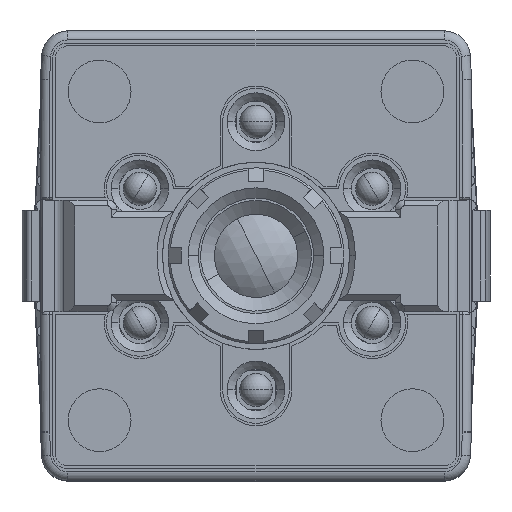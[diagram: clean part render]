
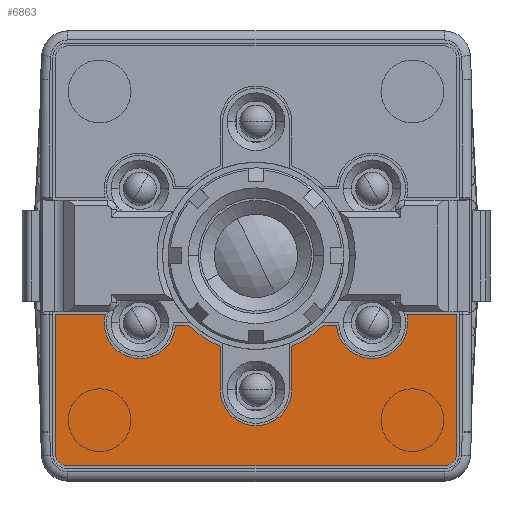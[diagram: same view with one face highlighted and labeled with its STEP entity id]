
A CAD part, top view. The second image highlights one B-rep face of the part: STEP entity #6863.
In plain terms, the highlighted planar face has unit normal (0, 0, 1).
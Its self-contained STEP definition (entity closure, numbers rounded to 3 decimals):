
#6853 = EDGE_CURVE ( 'NONE', #7175, #37166, #10245, .T. ) ;
#6858 = EDGE_LOOP ( 'NONE', ( #7137, #7193, #7194, #7267, #7192, #7215, #7101, #7147, #7149, #7150, #7105, #7106, #7242, #7257, #7158, #7167, #7169 ) ) ;
#6863 = ADVANCED_FACE ( 'NONE', ( #10236 ), #10234, .T. ) ;
#7098 = EDGE_CURVE ( 'NONE', #7178, #7182, #10275, .T. ) ;
#7101 = ORIENTED_EDGE ( 'NONE', *, *, #10218, .T. ) ;
#7105 = ORIENTED_EDGE ( 'NONE', *, *, #10482, .T. ) ;
#7106 = ORIENTED_EDGE ( 'NONE', *, *, #7176, .T. ) ;
#7137 = ORIENTED_EDGE ( 'NONE', *, *, #34178, .T. ) ;
#7147 = ORIENTED_EDGE ( 'NONE', *, *, #10497, .T. ) ;
#7149 = ORIENTED_EDGE ( 'NONE', *, *, #10647, .T. ) ;
#7150 = ORIENTED_EDGE ( 'NONE', *, *, #10595, .T. ) ;
#7158 = ORIENTED_EDGE ( 'NONE', *, *, #7181, .T. ) ;
#7167 = ORIENTED_EDGE ( 'NONE', *, *, #7265, .T. ) ;
#7169 = ORIENTED_EDGE ( 'NONE', *, *, #6853, .T. ) ;
#7175 = VERTEX_POINT ( 'NONE', #11048 ) ;
#7176 = EDGE_CURVE ( 'NONE', #10477, #10202, #11047, .T. ) ;
#7178 = VERTEX_POINT ( 'NONE', #11033 ) ;
#7181 = EDGE_CURVE ( 'NONE', #7182, #7202, #11140, .T. ) ;
#7182 = VERTEX_POINT ( 'NONE', #11135 ) ;
#7188 = EDGE_CURVE ( 'NONE', #10202, #7178, #11122, .T. ) ;
#7192 = ORIENTED_EDGE ( 'NONE', *, *, #10291, .T. ) ;
#7193 = ORIENTED_EDGE ( 'NONE', *, *, #10492, .T. ) ;
#7194 = ORIENTED_EDGE ( 'NONE', *, *, #10307, .T. ) ;
#7202 = VERTEX_POINT ( 'NONE', #11167 ) ;
#7215 = ORIENTED_EDGE ( 'NONE', *, *, #10455, .T. ) ;
#7242 = ORIENTED_EDGE ( 'NONE', *, *, #7188, .T. ) ;
#7257 = ORIENTED_EDGE ( 'NONE', *, *, #7098, .T. ) ;
#7265 = EDGE_CURVE ( 'NONE', #7202, #7175, #11543, .T. ) ;
#7267 = ORIENTED_EDGE ( 'NONE', *, *, #34067, .T. ) ;
#10154 = DIRECTION ( 'NONE',  ( -1., 0., 0. ) ) ;
#10156 = DIRECTION ( 'NONE',  ( 0., 0., 1. ) ) ;
#10157 = CARTESIAN_POINT ( 'NONE',  ( 10.176, -5.875, 44.1 ) ) ;
#10158 = AXIS2_PLACEMENT_3D ( 'NONE', #10157, #10156, #10154 ) ;
#10202 = VERTEX_POINT ( 'NONE', #13971 ) ;
#10216 = VERTEX_POINT ( 'NONE', #14174 ) ;
#10218 = EDGE_CURVE ( 'NONE', #10612, #10216, #14173, .T. ) ;
#10234 = PLANE ( 'NONE',  #10158 ) ;
#10236 = FACE_OUTER_BOUND ( 'NONE', #6858, .T. ) ;
#10237 = VERTEX_POINT ( 'NONE', #14123 ) ;
#10240 = DIRECTION ( 'NONE',  ( -1., 0., 0. ) ) ;
#10241 = DIRECTION ( 'NONE',  ( 0., 0., 1. ) ) ;
#10242 = CARTESIAN_POINT ( 'NONE',  ( 16.4, -17.209, 44.1 ) ) ;
#10243 = AXIS2_PLACEMENT_3D ( 'NONE', #10242, #10241, #10240 ) ;
#10245 = CIRCLE ( 'NONE', #10243, 1.2 ) ;
#10270 = DIRECTION ( 'NONE',  ( 0., -1., 0. ) ) ;
#10272 = VECTOR ( 'NONE', #10270, 1000. ) ;
#10274 = CARTESIAN_POINT ( 'NONE',  ( -17.6, -17.209, 44.1 ) ) ;
#10275 = LINE ( 'NONE', #10274, #10272 ) ;
#10287 = VERTEX_POINT ( 'NONE', #14187 ) ;
#10291 = EDGE_CURVE ( 'NONE', #34072, #10287, #14186, .T. ) ;
#10307 = EDGE_CURVE ( 'NONE', #10471, #34070, #14158, .T. ) ;
#10455 = EDGE_CURVE ( 'NONE', #10287, #10612, #14256, .T. ) ;
#10471 = VERTEX_POINT ( 'NONE', #14240 ) ;
#10477 = VERTEX_POINT ( 'NONE', #14354 ) ;
#10482 = EDGE_CURVE ( 'NONE', #10237, #10477, #14353, .T. ) ;
#10492 = EDGE_CURVE ( 'NONE', #34176, #10471, #14343, .T. ) ;
#10497 = EDGE_CURVE ( 'NONE', #10216, #10659, #14339, .T. ) ;
#10595 = EDGE_CURVE ( 'NONE', #10643, #10237, #14314, .T. ) ;
#10612 = VERTEX_POINT ( 'NONE', #14438 ) ;
#10643 = VERTEX_POINT ( 'NONE', #14275 ) ;
#10647 = EDGE_CURVE ( 'NONE', #10659, #10643, #14274, .T. ) ;
#10659 = VERTEX_POINT ( 'NONE', #14453 ) ;
#11033 = CARTESIAN_POINT ( 'NONE',  ( -17.6, -5.1, 44.1 ) ) ;
#11043 = DIRECTION ( 'NONE',  ( -1., 0., 0. ) ) ;
#11044 = DIRECTION ( 'NONE',  ( 0., 0., -1. ) ) ;
#11045 = CARTESIAN_POINT ( 'NONE',  ( -10.176, -5.875, 44.1 ) ) ;
#11046 = AXIS2_PLACEMENT_3D ( 'NONE', #11045, #11044, #11043 ) ;
#11047 = CIRCLE ( 'NONE', #11046, 3.125 ) ;
#11048 = CARTESIAN_POINT ( 'NONE',  ( 16.4, -18.409, 44.1 ) ) ;
#11117 = DIRECTION ( 'NONE',  ( -1., 0., 0. ) ) ;
#11118 = VECTOR ( 'NONE', #11117, 1000. ) ;
#11120 = CARTESIAN_POINT ( 'NONE',  ( -13.203, -5.1, 44.1 ) ) ;
#11122 = LINE ( 'NONE', #11120, #11118 ) ;
#11135 = CARTESIAN_POINT ( 'NONE',  ( -17.6, -17.209, 44.1 ) ) ;
#11136 = DIRECTION ( 'NONE',  ( -1., 0., 0. ) ) ;
#11137 = DIRECTION ( 'NONE',  ( 0., 0., 1. ) ) ;
#11138 = CARTESIAN_POINT ( 'NONE',  ( -16.4, -17.209, 44.1 ) ) ;
#11139 = AXIS2_PLACEMENT_3D ( 'NONE', #11138, #11137, #11136 ) ;
#11140 = CIRCLE ( 'NONE', #11139, 1.2 ) ;
#11167 = CARTESIAN_POINT ( 'NONE',  ( -16.4, -18.409, 44.1 ) ) ;
#11542 = CARTESIAN_POINT ( 'NONE',  ( -16.4, -18.409, 44.1 ) ) ;
#11543 = LINE ( 'NONE', #11542, #11555 ) ;
#11554 = DIRECTION ( 'NONE',  ( 1., 0., 0. ) ) ;
#11555 = VECTOR ( 'NONE', #11554, 1000. ) ;
#13971 = CARTESIAN_POINT ( 'NONE',  ( -13.203, -5.1, 44.1 ) ) ;
#14059 = DIRECTION ( 'NONE',  ( 0., -1., 0. ) ) ;
#14060 = VECTOR ( 'NONE', #14059, 1000. ) ;
#14061 = CARTESIAN_POINT ( 'NONE',  ( 3.125, -11.75, 44.1 ) ) ;
#14123 = CARTESIAN_POINT ( 'NONE',  ( -5.945, -6.075, 44.1 ) ) ;
#14155 = DIRECTION ( 'NONE',  ( -1., 0., 0. ) ) ;
#14156 = DIRECTION ( 'NONE',  ( 0., 0., -1. ) ) ;
#14157 = AXIS2_PLACEMENT_3D ( 'NONE', #14162, #14156, #14155 ) ;
#14158 = CIRCLE ( 'NONE', #14157, 3.125 ) ;
#14162 = CARTESIAN_POINT ( 'NONE',  ( 10.176, -5.875, 44.1 ) ) ;
#14172 = DIRECTION ( 'NONE',  ( -1., 0., 0. ) ) ;
#14173 = LINE ( 'NONE', #14061, #14060 ) ;
#14174 = CARTESIAN_POINT ( 'NONE',  ( 3.125, -11.75, 44.1 ) ) ;
#14184 = VECTOR ( 'NONE', #14172, 1000. ) ;
#14185 = CARTESIAN_POINT ( 'NONE',  ( 7.057, -6.075, 44.1 ) ) ;
#14186 = LINE ( 'NONE', #14185, #14184 ) ;
#14187 = CARTESIAN_POINT ( 'NONE',  ( 5.945, -6.075, 44.1 ) ) ;
#14240 = CARTESIAN_POINT ( 'NONE',  ( 13.203, -5.1, 44.1 ) ) ;
#14252 = DIRECTION ( 'NONE',  ( -1., 0., 0. ) ) ;
#14253 = DIRECTION ( 'NONE',  ( 0., 0., -1. ) ) ;
#14254 = CARTESIAN_POINT ( 'NONE',  ( 0., 0., 44.1 ) ) ;
#14255 = AXIS2_PLACEMENT_3D ( 'NONE', #14254, #14253, #14252 ) ;
#14256 = CIRCLE ( 'NONE', #14255, 8.5 ) ;
#14271 = DIRECTION ( 'NONE',  ( 0., 1., 0. ) ) ;
#14272 = VECTOR ( 'NONE', #14271, 1000. ) ;
#14273 = CARTESIAN_POINT ( 'NONE',  ( -3.125, -11.75, 44.1 ) ) ;
#14274 = LINE ( 'NONE', #14273, #14272 ) ;
#14275 = CARTESIAN_POINT ( 'NONE',  ( -3.125, -7.905, 44.1 ) ) ;
#14310 = DIRECTION ( 'NONE',  ( -1., 0., 0. ) ) ;
#14311 = DIRECTION ( 'NONE',  ( 0., 0., -1. ) ) ;
#14312 = CARTESIAN_POINT ( 'NONE',  ( 0., 0., 44.1 ) ) ;
#14313 = AXIS2_PLACEMENT_3D ( 'NONE', #14312, #14311, #14310 ) ;
#14314 = CIRCLE ( 'NONE', #14313, 8.5 ) ;
#14335 = DIRECTION ( 'NONE',  ( -1., 0., 0. ) ) ;
#14336 = DIRECTION ( 'NONE',  ( 0., 0., -1. ) ) ;
#14337 = CARTESIAN_POINT ( 'NONE',  ( 0., -11.75, 44.1 ) ) ;
#14338 = AXIS2_PLACEMENT_3D ( 'NONE', #14337, #14336, #14335 ) ;
#14339 = CIRCLE ( 'NONE', #14338, 3.125 ) ;
#14340 = DIRECTION ( 'NONE',  ( -1., 0., 0. ) ) ;
#14341 = VECTOR ( 'NONE', #14340, 1000. ) ;
#14342 = CARTESIAN_POINT ( 'NONE',  ( 17.6, -5.1, 44.1 ) ) ;
#14343 = LINE ( 'NONE', #14342, #14341 ) ;
#14350 = DIRECTION ( 'NONE',  ( -1., 0., 0. ) ) ;
#14351 = VECTOR ( 'NONE', #14350, 1000. ) ;
#14352 = CARTESIAN_POINT ( 'NONE',  ( -7.057, -6.075, 44.1 ) ) ;
#14353 = LINE ( 'NONE', #14352, #14351 ) ;
#14354 = CARTESIAN_POINT ( 'NONE',  ( -7.057, -6.075, 44.1 ) ) ;
#14438 = CARTESIAN_POINT ( 'NONE',  ( 3.125, -7.905, 44.1 ) ) ;
#14453 = CARTESIAN_POINT ( 'NONE',  ( -3.125, -11.75, 44.1 ) ) ;
#26295 = DIRECTION ( 'NONE',  ( 0., 1., 0. ) ) ;
#26296 = VECTOR ( 'NONE', #26295, 1000. ) ;
#26297 = CARTESIAN_POINT ( 'NONE',  ( 17.6, -17.209, 44.1 ) ) ;
#26298 = LINE ( 'NONE', #26297, #26296 ) ;
#26299 = CARTESIAN_POINT ( 'NONE',  ( 17.6, -5.1, 44.1 ) ) ;
#26380 = CARTESIAN_POINT ( 'NONE',  ( 7.057, -6.075, 44.1 ) ) ;
#26381 = CARTESIAN_POINT ( 'NONE',  ( 13.301, -5.875, 44.1 ) ) ;
#26382 = DIRECTION ( 'NONE',  ( -1., 0., 0. ) ) ;
#26383 = DIRECTION ( 'NONE',  ( 0., 0., -1. ) ) ;
#26384 = CARTESIAN_POINT ( 'NONE',  ( 10.176, -5.875, 44.1 ) ) ;
#26385 = AXIS2_PLACEMENT_3D ( 'NONE', #26384, #26383, #26382 ) ;
#26386 = CIRCLE ( 'NONE', #26385, 3.125 ) ;
#27090 = CARTESIAN_POINT ( 'NONE',  ( 17.6, -17.209, 44.1 ) ) ;
#34067 = EDGE_CURVE ( 'NONE', #34070, #34072, #26386, .T. ) ;
#34070 = VERTEX_POINT ( 'NONE', #26381 ) ;
#34072 = VERTEX_POINT ( 'NONE', #26380 ) ;
#34176 = VERTEX_POINT ( 'NONE', #26299 ) ;
#34178 = EDGE_CURVE ( 'NONE', #37166, #34176, #26298, .T. ) ;
#37166 = VERTEX_POINT ( 'NONE', #27090 ) ;
